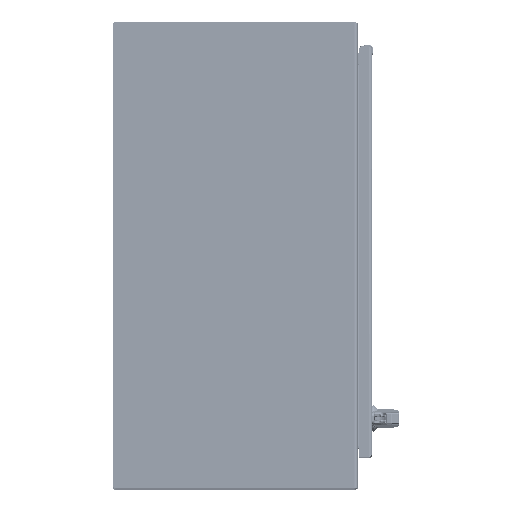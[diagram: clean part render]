
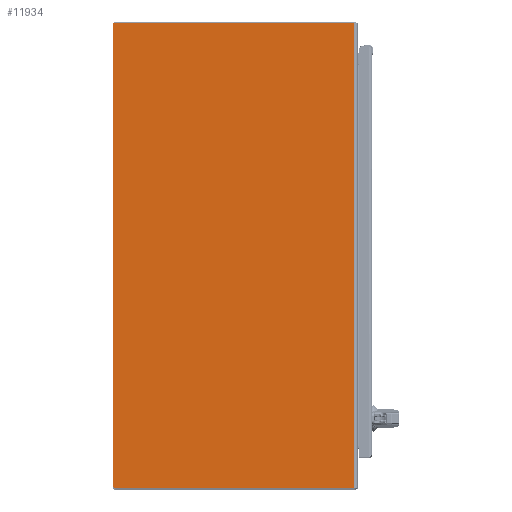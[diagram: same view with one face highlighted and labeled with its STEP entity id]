
A CAD part, top view. The second image highlights one B-rep face of the part: STEP entity #11934.
In plain terms, the highlighted planar face has unit normal (0, 0, 1) as drawn and (0, 1, 0) by its records, which use the part's own axes.
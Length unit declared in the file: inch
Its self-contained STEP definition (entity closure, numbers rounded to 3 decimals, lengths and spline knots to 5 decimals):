
#11145=CARTESIAN_POINT('',(-17.888,0.,-17.013));
#11146=DIRECTION('',(0.,1.,0.));
#11147=DIRECTION('',(0.,0.,-1.));
#11148=AXIS2_PLACEMENT_3D('',#11145,#11146,#11147);
#11153=CARTESIAN_POINT('',(-17.888,0.,17.013));
#11154=DIRECTION('',(0.,1.,0.));
#11155=DIRECTION('',(-1.,0.,0.));
#11156=AXIS2_PLACEMENT_3D('',#11153,#11154,#11155);
#11168=DIRECTION('',(0.,0.,-1.));
#11169=VECTOR('',#11168,34.026);
#11170=CARTESIAN_POINT('',(-17.948,0.,17.013));
#11171=LINE('',#11170,#11169);
#11196=DIRECTION('',(-1.,0.,0.));
#11197=VECTOR('',#11196,17.6415);
#11198=CARTESIAN_POINT('',(-0.2465,0.,17.073));
#11199=LINE('',#11198,#11197);
#11239=DIRECTION('',(0.,0.,1.));
#11240=VECTOR('',#11239,34.146);
#11241=CARTESIAN_POINT('',(-0.2465,0.,-17.073));
#11242=LINE('',#11241,#11240);
#11347=DIRECTION('',(-1.,0.,0.));
#11348=VECTOR('',#11347,17.6415);
#11349=CARTESIAN_POINT('',(-0.2465,0.,-17.073));
#11350=LINE('',#11349,#11348);
#11819=CARTESIAN_POINT('',(-0.2465,0.,17.073));
#11820=VERTEX_POINT('',#11819);
#11821=CARTESIAN_POINT('',(-0.2465,0.,-17.073));
#11822=VERTEX_POINT('',#11821);
#11847=CARTESIAN_POINT('',(-17.888,0.,-17.073));
#11848=CARTESIAN_POINT('',(-17.948,0.,-17.013));
#11849=VERTEX_POINT('',#11847);
#11850=VERTEX_POINT('',#11848);
#11855=CARTESIAN_POINT('',(-17.948,0.,17.013));
#11856=CARTESIAN_POINT('',(-17.888,0.,17.073));
#11857=VERTEX_POINT('',#11855);
#11858=VERTEX_POINT('',#11856);
#11915=CARTESIAN_POINT('',(0.,0.,17.073));
#11916=DIRECTION('',(0.,1.,0.));
#11917=DIRECTION('',(-1.,0.,0.));
#11918=AXIS2_PLACEMENT_3D('',#11915,#11916,#11917);
#11919=PLANE('',#11918);
#11921=ORIENTED_EDGE('',*,*,#11920,.F.);
#11923=ORIENTED_EDGE('',*,*,#11922,.F.);
#11925=ORIENTED_EDGE('',*,*,#11924,.T.);
#11927=ORIENTED_EDGE('',*,*,#11926,.T.);
#11929=ORIENTED_EDGE('',*,*,#11928,.F.);
#11931=ORIENTED_EDGE('',*,*,#11930,.T.);
#11932=EDGE_LOOP('',(#11921,#11923,#11925,#11927,#11929,#11931));
#11933=FACE_OUTER_BOUND('',#11932,.F.);
#11149=CIRCLE('',#11148,0.06);
#11157=CIRCLE('',#11156,0.06);
#11920=EDGE_CURVE('',#11849,#11850,#11149,.T.);
#11922=EDGE_CURVE('',#11822,#11849,#11350,.T.);
#11924=EDGE_CURVE('',#11822,#11820,#11242,.T.);
#11926=EDGE_CURVE('',#11820,#11858,#11199,.T.);
#11928=EDGE_CURVE('',#11857,#11858,#11157,.T.);
#11930=EDGE_CURVE('',#11857,#11850,#11171,.T.);
#11934=ADVANCED_FACE('',(#11933),#11919,.T.);
